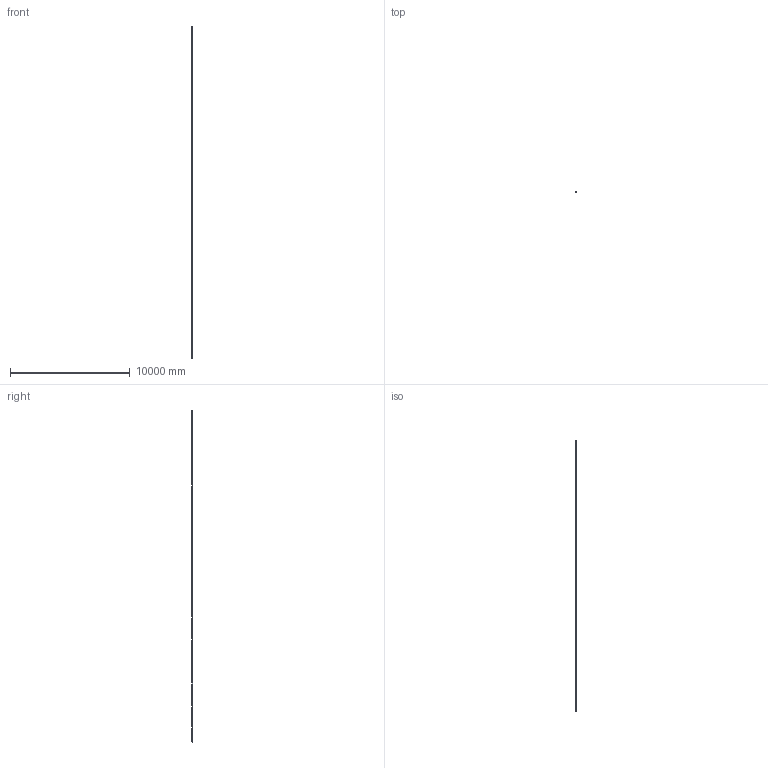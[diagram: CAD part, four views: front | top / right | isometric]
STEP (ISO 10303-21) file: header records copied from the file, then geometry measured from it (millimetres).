
FILE_DESCRIPTION(('Creo Elements/Direct Modeling STEP Export'),'2;1');
FILE_NAME('F-274.stp','2011-11-18T12:45:54',(''),(''),'Creo Elements/Direct Modeling STEP processor for AP214 (Solid Model)','Creo Elements/Direct Modeling 17.0C 05-Feb-2011 (C) Parametric Technology GmbH','');
FILE_SCHEMA(('AUTOMOTIVE_DESIGN { 1 0 10303 214 1 1 1 1 }'));
Length unit declared in the file: millimetre
Products named in the file (5): Modulos_intermedio_(FL-14).16; CABEZA; Modulo_der_(22E); Modulo_izq_(K); F-274
Assembly tree (20 placements, depth 2):
  F-274
    Modulos_intermedio_(FL-14).16  x17
    Modulo_izq_(K)
    Modulo_der_(22E)
    CABEZA
Bounding box: 51.5 x 87.95 x 27735.6 mm (x, y, z)
Volume: 70580969.2 mm3; surface area: 8085197.1 mm2
Topology: 21 solids, 177 shells, 11207 faces, 31322 edges, 19955 vertices
Faces by surface type: cylinder 4929, plane 4120, cone 888, torus 586, bspline 494, extrusion 180, sphere 10
Entity records: 107638 total; most frequent: CARTESIAN_POINT 34235, ORIENTED_EDGE 15792, DIRECTION 13572, EDGE_CURVE 7890, VERTEX_POINT 5105, AXIS2_PLACEMENT_3D 4785, VECTOR 4002, LINE 3982
